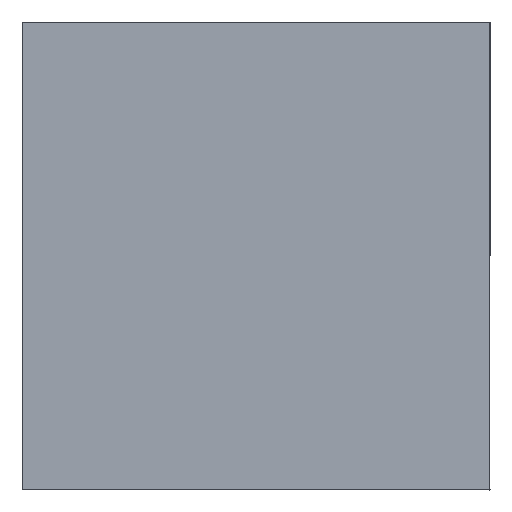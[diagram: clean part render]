
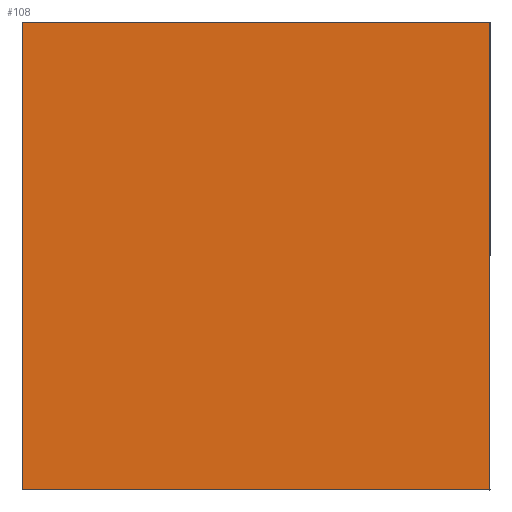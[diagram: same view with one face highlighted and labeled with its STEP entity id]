
A CAD part, left-side view. The second image highlights one B-rep face of the part: STEP entity #108.
In plain terms, the highlighted planar face has unit normal (-1, 0, 0).
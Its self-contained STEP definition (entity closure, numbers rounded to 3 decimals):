
#8 = DIRECTION ( 'NONE',  ( 0., 0., -1. ) ) ;
#13 = CARTESIAN_POINT ( 'NONE',  ( -0.56, 0., 0.355 ) ) ;
#17 = EDGE_CURVE ( 'NONE', #471, #19, #256, .T. ) ;
#19 = VERTEX_POINT ( 'NONE', #409 ) ;
#25 = CARTESIAN_POINT ( 'NONE',  ( -0.56, 0., -0.355 ) ) ;
#28 = ORIENTED_EDGE ( 'NONE', *, *, #236, .F. ) ;
#49 = PLANE ( 'NONE',  #204 ) ;
#76 = VECTOR ( 'NONE', #470, 1000. ) ;
#89 = FACE_OUTER_BOUND ( 'NONE', #400, .T. ) ;
#108 = ADVANCED_FACE ( 'NONE', ( #89 ), #49, .F. ) ;
#127 = VECTOR ( 'NONE', #293, 1000. ) ;
#132 = LINE ( 'NONE', #432, #374 ) ;
#152 = CARTESIAN_POINT ( 'NONE',  ( -0.56, 2.015, -0.335 ) ) ;
#177 = VERTEX_POINT ( 'NONE', #309 ) ;
#204 = AXIS2_PLACEMENT_3D ( 'NONE', #152, #417, #464 ) ;
#208 = DIRECTION ( 'NONE',  ( 0., -1., 0. ) ) ;
#213 = VERTEX_POINT ( 'NONE', #13 ) ;
#224 = CARTESIAN_POINT ( 'NONE',  ( -0.56, 0.71, -0.355 ) ) ;
#236 = EDGE_CURVE ( 'NONE', #177, #471, #395, .T. ) ;
#243 = ORIENTED_EDGE ( 'NONE', *, *, #446, .F. ) ;
#247 = EDGE_CURVE ( 'NONE', #19, #213, #132, .T. ) ;
#250 = ORIENTED_EDGE ( 'NONE', *, *, #17, .F. ) ;
#255 = VECTOR ( 'NONE', #8, 1000. ) ;
#256 = LINE ( 'NONE', #224, #127 ) ;
#293 = DIRECTION ( 'NONE',  ( 0., 0., 1. ) ) ;
#309 = CARTESIAN_POINT ( 'NONE',  ( -0.56, 0., -0.355 ) ) ;
#357 = ORIENTED_EDGE ( 'NONE', *, *, #247, .F. ) ;
#374 = VECTOR ( 'NONE', #208, 1000. ) ;
#395 = LINE ( 'NONE', #25, #76 ) ;
#400 = EDGE_LOOP ( 'NONE', ( #28, #243, #357, #250 ) ) ;
#409 = CARTESIAN_POINT ( 'NONE',  ( -0.56, 0.71, 0.355 ) ) ;
#410 = LINE ( 'NONE', #456, #255 ) ;
#417 = DIRECTION ( 'NONE',  ( 1., 0., 0. ) ) ;
#432 = CARTESIAN_POINT ( 'NONE',  ( -0.56, 0.71, 0.355 ) ) ;
#446 = EDGE_CURVE ( 'NONE', #213, #177, #410, .T. ) ;
#448 = CARTESIAN_POINT ( 'NONE',  ( -0.56, 0.71, -0.355 ) ) ;
#456 = CARTESIAN_POINT ( 'NONE',  ( -0.56, 0., 0.355 ) ) ;
#464 = DIRECTION ( 'NONE',  ( 0., 0., -1. ) ) ;
#470 = DIRECTION ( 'NONE',  ( 0., 1., 0. ) ) ;
#471 = VERTEX_POINT ( 'NONE', #448 ) ;
